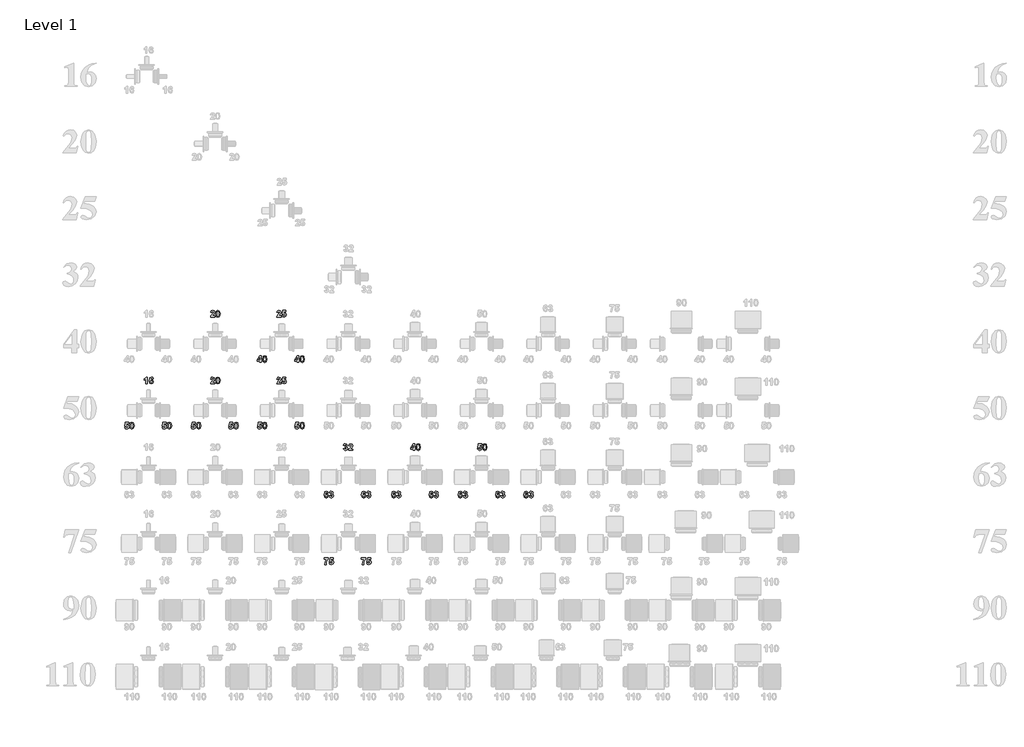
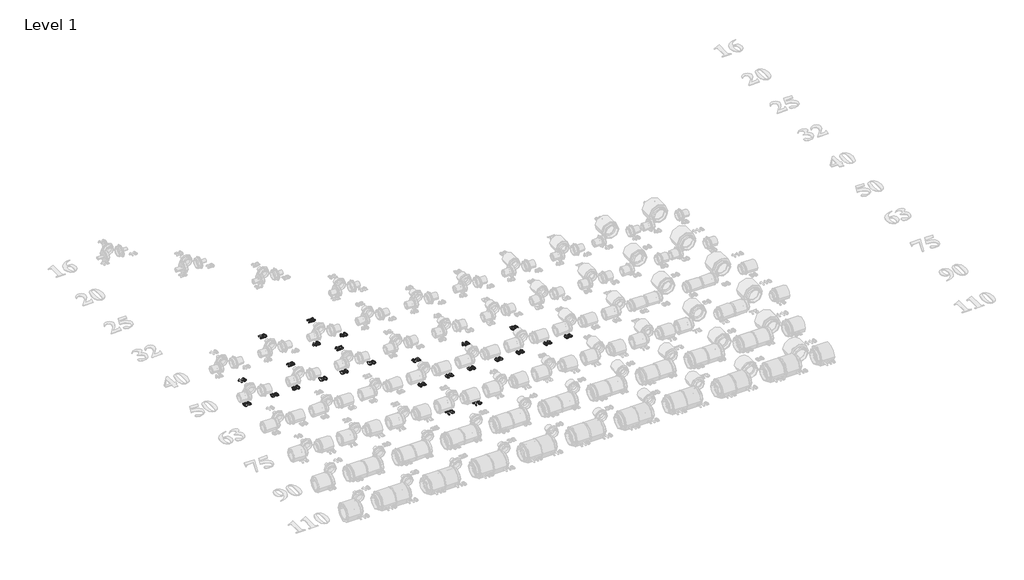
# One storey, part 21 of 57: 25 proxies.
"""IFC4 building model written with IfcOpenShell, lengths in millimetres."""

from ifc_helpers import new_model, si_unit, frame, origin, place, context, project, spatial, polyline, outline, extrude, element, save

model = new_model("IFC4")

# Units and contexts
model_context = context("Model", 3, world=origin())
ifc_project = project(units=[si_unit("LENGTHUNIT", "METRE", prefix="MILLI")], contexts=[model_context])

# Site, building, storey
site = spatial("IfcSite", under=ifc_project)
building = spatial("IfcBuilding", under=site)
storey = spatial("IfcBuildingStorey", under=building, Name="Level 1", Elevation=27.3876384)

# Proxies
placement = place(None, origin())
element("IfcBuildingElementProxy", 1, Name="30mm Arial", ObjectType="30mm Arial", at=placement, inside=storey, context=model_context, shape_type="SweptSolid", body=[
    extrude(outline(polyline([(13564.9569226, 17572.2275482), (13564.9569226, 17566.3974945), (13545.5234103, 17566.3974945), (13547.3832581, 17572.1174756), (13553.4941868, 17579.2873789), (13558.003369, 17584.1761218), (13559.1268689, 17587.6832635), (13558.1817626, 17590.6324508), (13555.5741799, 17591.6610606), (13552.9628017, 17590.6476333), (13551.8393018, 17587.2885203), (13546.0092481, 17587.8199054), (13549.136829, 17594.8683493), (13555.7032306, 17597.0052765), (13562.4897775, 17594.6102479), (13564.9569226, 17588.6549391), (13564.2813044, 17584.7986015), (13562.1405816, 17580.9650376), (13558.515776, 17577.1390648), (13555.1870279, 17573.8217035), (13554.0938929, 17572.2275482), (13564.9569226, 17572.2275482)])), frame((0.0, 0.0, 27.3876384), z_axis=(0.0, 0.0, 1.0), x_axis=(1.0, 0.0, 0.0)), (0.0, 0.0, 1.0), 2.0),
    extrude(outline(polyline([(13578.5603813, 17597.0052765), (13585.3545194, 17593.8473307), (13588.2771375, 17581.4508754), (13585.339337, 17569.0240552), (13578.5603813, 17565.9116567), (13571.5195287, 17569.3277038), (13568.8436251, 17581.5116051), (13571.7814256, 17593.892878), (13578.5603813, 17597.0052765)]), holes=[polyline([(13578.5603813, 17591.6610606), (13576.6170301, 17591.0196029), (13575.2961585, 17588.7156689), (13574.6736788, 17581.4508754), (13575.2278376, 17574.4327964), (13576.6284169, 17571.8897391), (13578.5603813, 17571.2558726), (13580.5037325, 17571.8973303), (13581.8246041, 17574.2012643), (13582.4470838, 17581.4508754), (13581.892925, 17588.4651587), (13580.4923457, 17591.0196029), (13578.5603813, 17591.6610606)])]), frame((0.0, 0.0, 27.3876384), z_axis=(0.0, 0.0, 1.0), x_axis=(1.0, 0.0, 0.0)), (0.0, 0.0, 1.0), 2.0),
])
element("IfcBuildingElementProxy", 2, Name="30mm Arial", ObjectType="30mm Arial", at=placement, inside=storey, context=model_context, shape_type="SweptSolid", body=[
    extrude(outline(polyline([(13767.2836573, 17362.5788539), (13767.2836573, 17368.8947455), (13755.6235498, 17368.8947455), (13755.6235498, 17373.7303499), (13768.0579613, 17392.7007981), (13773.113711, 17392.7007981), (13773.113711, 17373.7531236), (13777.0004134, 17373.7531236), (13777.0004134, 17368.8947455), (13773.113711, 17368.8947455), (13773.113711, 17362.5788539), (13767.2836573, 17362.5788539)]), holes=[polyline([(13767.2836573, 17373.7531236), (13767.2836573, 17383.6976162), (13760.7703941, 17373.7531236), (13767.2836573, 17373.7531236)])]), frame((0.0, 0.0, 27.3876384), z_axis=(0.0, 0.0, 1.0), x_axis=(1.0, 0.0, 0.0)), (0.0, 0.0, 1.0), 2.0),
    extrude(outline(polyline([(13789.6321965, 17393.1866359), (13796.4263346, 17390.0286902), (13799.3489527, 17377.6322348), (13796.4111522, 17365.2054146), (13789.6321965, 17362.0930161), (13782.5913439, 17365.5090632), (13779.9154403, 17377.6929645), (13782.8532408, 17390.0742375), (13789.6321965, 17393.1866359)]), holes=[polyline([(13789.6321965, 17387.84242), (13787.6888453, 17387.2009623), (13786.3679737, 17384.8970283), (13785.745494, 17377.6322348), (13786.2996528, 17370.6141558), (13787.7002321, 17368.0710985), (13789.6321965, 17367.437232), (13791.5755477, 17368.0786898), (13792.8964193, 17370.3826237), (13793.518899, 17377.6322348), (13792.9647402, 17384.6465182), (13791.5641609, 17387.2009623), (13789.6321965, 17387.84242)])]), frame((0.0, 0.0, 27.3876384), z_axis=(0.0, 0.0, 1.0), x_axis=(1.0, 0.0, 0.0)), (0.0, 0.0, 1.0), 2.0),
])
element("IfcBuildingElementProxy", 3, Name="30mm Arial", ObjectType="30mm Arial", at=placement, inside=storey, context=model_context, shape_type="SweptSolid", body=[
    extrude(outline(polyline([(13936.0336573, 17362.5788539), (13936.0336573, 17368.8947455), (13924.3735498, 17368.8947455), (13924.3735498, 17373.7303499), (13936.8079613, 17392.7007981), (13941.863711, 17392.7007981), (13941.863711, 17373.7531236), (13945.7504134, 17373.7531236), (13945.7504134, 17368.8947455), (13941.863711, 17368.8947455), (13941.863711, 17362.5788539), (13936.0336573, 17362.5788539)]), holes=[polyline([(13936.0336573, 17373.7531236), (13936.0336573, 17383.6976162), (13929.5203941, 17373.7531236), (13936.0336573, 17373.7531236)])]), frame((0.0, 0.0, 27.3876384), z_axis=(0.0, 0.0, 1.0), x_axis=(1.0, 0.0, 0.0)), (0.0, 0.0, 1.0), 2.0),
    extrude(outline(polyline([(13958.3821965, 17393.1866359), (13965.1763346, 17390.0286902), (13968.0989527, 17377.6322348), (13965.1611522, 17365.2054146), (13958.3821965, 17362.0930161), (13951.3413439, 17365.5090632), (13948.6654403, 17377.6929645), (13951.6032408, 17390.0742375), (13958.3821965, 17393.1866359)]), holes=[polyline([(13958.3821965, 17387.84242), (13956.4388453, 17387.2009623), (13955.1179737, 17384.8970283), (13954.495494, 17377.6322348), (13955.0496528, 17370.6141558), (13956.4502321, 17368.0710985), (13958.3821965, 17367.437232), (13960.3255477, 17368.0786898), (13961.6464193, 17370.3826237), (13962.268899, 17377.6322348), (13961.7147402, 17384.6465182), (13960.3141609, 17387.2009623), (13958.3821965, 17387.84242)])]), frame((0.0, 0.0, 27.3876384), z_axis=(0.0, 0.0, 1.0), x_axis=(1.0, 0.0, 0.0)), (0.0, 0.0, 1.0), 2.0),
])
element("IfcBuildingElementProxy", 4, Name="30mm Arial", ObjectType="30mm Arial", at=placement, inside=storey, context=model_context, shape_type="SweptSolid", body=[
    extrude(outline(polyline([(13862.9569226, 17572.2275482), (13862.9569226, 17566.3974945), (13843.5234103, 17566.3974945), (13845.3832581, 17572.1174756), (13851.4941868, 17579.2873789), (13856.003369, 17584.1761218), (13857.1268689, 17587.6832635), (13856.1817626, 17590.6324508), (13853.5741799, 17591.6610606), (13850.9628017, 17590.6476333), (13849.8393018, 17587.2885203), (13844.0092481, 17587.8199054), (13847.136829, 17594.8683493), (13853.7032306, 17597.0052765), (13860.4897775, 17594.6102479), (13862.9569226, 17588.6549391), (13862.2813044, 17584.7986015), (13860.1405816, 17580.9650376), (13856.515776, 17577.1390648), (13853.1870279, 17573.8217035), (13852.0938929, 17572.2275482), (13862.9569226, 17572.2275482)])), frame((0.0, 0.0, 27.3876384), z_axis=(0.0, 0.0, 1.0), x_axis=(1.0, 0.0, 0.0)), (0.0, 0.0, 1.0), 2.0),
    extrude(outline(polyline([(13866.8436251, 17575.0135244), (13872.187841, 17575.6284129), (13873.6757193, 17572.432511), (13876.5300164, 17571.2558726), (13879.6538017, 17572.5046276), (13880.9329216, 17576.266075), (13879.7448963, 17579.7959903), (13876.6514759, 17580.9726288), (13872.3852126, 17578.5434397), (13867.3294629, 17579.2949701), (13870.7303276, 17596.5194387), (13885.3054619, 17596.5194387), (13885.3054619, 17590.689385), (13875.4444726, 17590.689385), (13874.2678341, 17585.1250238), (13878.0254859, 17586.3168447), (13884.219918, 17583.5574377), (13886.7629753, 17576.3951257), (13884.6450261, 17569.8439065), (13876.621111, 17565.9116567), (13869.9370455, 17568.3788018), (13866.8436251, 17575.0135244)])), frame((0.0, 0.0, 27.3876384), z_axis=(0.0, 0.0, 1.0), x_axis=(1.0, 0.0, 0.0)), (0.0, 0.0, 1.0), 2.0),
])
element("IfcBuildingElementProxy", 5, Name="30mm Arial", ObjectType="30mm Arial", at=placement, inside=storey, context=model_context, shape_type="SweptSolid", body=[
    extrude(outline(polyline([(13158.5952254, 17071.1948838), (13163.9394414, 17071.8097723), (13165.4273196, 17068.6138705), (13168.2816168, 17067.437232), (13171.4054021, 17068.685987), (13172.6845219, 17072.4474344), (13171.4964967, 17075.9773498), (13168.4030762, 17077.1539882), (13164.136813, 17074.7247992), (13159.0810633, 17075.4763295), (13162.4819279, 17092.7007981), (13177.0570622, 17092.7007981), (13177.0570622, 17086.8707444), (13167.1960729, 17086.8707444), (13166.0194345, 17081.3063832), (13169.7770863, 17082.4982041), (13175.9715184, 17079.7387972), (13178.5145756, 17072.5764851), (13176.3966264, 17066.0252659), (13168.3727114, 17062.0930161), (13161.6886459, 17064.5601612), (13158.5952254, 17071.1948838)])), frame((0.0, 0.0, 27.3876384), z_axis=(0.0, 0.0, 1.0), x_axis=(1.0, 0.0, 0.0)), (0.0, 0.0, 1.0), 2.0),
    extrude(outline(polyline([(13191.6321965, 17093.1866359), (13198.4263346, 17090.0286902), (13201.3489527, 17077.6322348), (13198.4111522, 17065.2054146), (13191.6321965, 17062.0930161), (13184.5913439, 17065.5090632), (13181.9154403, 17077.6929645), (13184.8532408, 17090.0742375), (13191.6321965, 17093.1866359)]), holes=[polyline([(13191.6321965, 17087.84242), (13189.6888453, 17087.2009623), (13188.3679737, 17084.8970283), (13187.745494, 17077.6322348), (13188.2996528, 17070.6141558), (13189.7002321, 17068.0710985), (13191.6321965, 17067.437232), (13193.5755477, 17068.0786898), (13194.8964193, 17070.3826237), (13195.518899, 17077.6322348), (13194.9647402, 17084.6465182), (13193.5641609, 17087.2009623), (13191.6321965, 17087.84242)])]), frame((0.0, 0.0, 27.3876384), z_axis=(0.0, 0.0, 1.0), x_axis=(1.0, 0.0, 0.0)), (0.0, 0.0, 1.0), 2.0),
])
element("IfcBuildingElementProxy", 6, Name="30mm Arial", ObjectType="30mm Arial", at=placement, inside=storey, context=model_context, shape_type="SweptSolid", body=[
    extrude(outline(polyline([(13327.3452254, 17071.1948838), (13332.6894414, 17071.8097723), (13334.1773196, 17068.6138705), (13337.0316168, 17067.437232), (13340.1554021, 17068.685987), (13341.4345219, 17072.4474344), (13340.2464967, 17075.9773498), (13337.1530762, 17077.1539882), (13332.886813, 17074.7247992), (13327.8310633, 17075.4763295), (13331.2319279, 17092.7007981), (13345.8070622, 17092.7007981), (13345.8070622, 17086.8707444), (13335.9460729, 17086.8707444), (13334.7694345, 17081.3063832), (13338.5270863, 17082.4982041), (13344.7215184, 17079.7387972), (13347.2645756, 17072.5764851), (13345.1466264, 17066.0252659), (13337.1227114, 17062.0930161), (13330.4386459, 17064.5601612), (13327.3452254, 17071.1948838)])), frame((0.0, 0.0, 27.3876384), z_axis=(0.0, 0.0, 1.0), x_axis=(1.0, 0.0, 0.0)), (0.0, 0.0, 1.0), 2.0),
    extrude(outline(polyline([(13360.3821965, 17093.1866359), (13367.1763346, 17090.0286902), (13370.0989527, 17077.6322348), (13367.1611522, 17065.2054146), (13360.3821965, 17062.0930161), (13353.3413439, 17065.5090632), (13350.6654403, 17077.6929645), (13353.6032408, 17090.0742375), (13360.3821965, 17093.1866359)]), holes=[polyline([(13360.3821965, 17087.84242), (13358.4388453, 17087.2009623), (13357.1179737, 17084.8970283), (13356.495494, 17077.6322348), (13357.0496528, 17070.6141558), (13358.4502321, 17068.0710985), (13360.3821965, 17067.437232), (13362.3255477, 17068.0786898), (13363.6464193, 17070.3826237), (13364.268899, 17077.6322348), (13363.7147402, 17084.6465182), (13362.3141609, 17087.2009623), (13360.3821965, 17087.84242)])]), frame((0.0, 0.0, 27.3876384), z_axis=(0.0, 0.0, 1.0), x_axis=(1.0, 0.0, 0.0)), (0.0, 0.0, 1.0), 2.0),
])
element("IfcBuildingElementProxy", 7, Name="30mm Arial", ObjectType="30mm Arial", at=placement, inside=storey, context=model_context, shape_type="SweptSolid", body=[
    extrude(outline(polyline([(13260.0985445, 17266.3974945), (13254.2684908, 17266.3974945), (13254.2684908, 17288.2753784), (13246.9809237, 17283.4018178), (13246.9809237, 17289.2318715), (13251.846893, 17292.0899643), (13255.4527205, 17297.0052765), (13260.0985445, 17297.0052765), (13260.0985445, 17266.3974945)])), frame((0.0, 0.0, 27.3876384), z_axis=(0.0, 0.0, 1.0), x_axis=(1.0, 0.0, 0.0)), (0.0, 0.0, 1.0), 2.0),
    extrude(outline(polyline([(13287.7912997, 17288.8826756), (13281.961246, 17288.2601959), (13280.9288406, 17290.8298225), (13278.7577529, 17291.6610606), (13275.7668139, 17290.0479272), (13274.2257971, 17283.2727672), (13279.5548306, 17285.8310069), (13285.7151022, 17283.0981692), (13288.2771375, 17276.0459297), (13285.658168, 17268.686246), (13278.9247597, 17265.9116567), (13271.6827398, 17269.4947105), (13268.8436251, 17281.2383213), (13271.8079949, 17293.3083544), (13279.5092833, 17297.0052765), (13285.0129147, 17294.9252834), (13287.7912997, 17288.8826756)]), holes=[polyline([(13274.6736788, 17276.1749804), (13275.9338206, 17272.5349924), (13278.8108914, 17271.2558726), (13281.4070872, 17272.3034604), (13282.4470838, 17275.7422811), (13281.3273794, 17279.344313), (13278.5300164, 17280.486791), (13275.7933831, 17279.3936559), (13274.6736788, 17276.1749804)])]), frame((0.0, 0.0, 27.3876384), z_axis=(0.0, 0.0, 1.0), x_axis=(1.0, 0.0, 0.0)), (0.0, 0.0, 1.0), 2.0),
])
element("IfcBuildingElementProxy", 8, Name="30mm Arial", ObjectType="30mm Arial", at=placement, inside=storey, context=model_context, shape_type="SweptSolid", body=[
    extrude(outline(polyline([(13458.5952254, 17071.1948838), (13463.9394414, 17071.8097723), (13465.4273196, 17068.6138705), (13468.2816168, 17067.437232), (13471.4054021, 17068.685987), (13472.6845219, 17072.4474344), (13471.4964967, 17075.9773498), (13468.4030762, 17077.1539882), (13464.136813, 17074.7247992), (13459.0810633, 17075.4763295), (13462.4819279, 17092.7007981), (13477.0570622, 17092.7007981), (13477.0570622, 17086.8707444), (13467.1960729, 17086.8707444), (13466.0194345, 17081.3063832), (13469.7770863, 17082.4982041), (13475.9715184, 17079.7387972), (13478.5145756, 17072.5764851), (13476.3966264, 17066.0252659), (13468.3727114, 17062.0930161), (13461.6886459, 17064.5601612), (13458.5952254, 17071.1948838)])), frame((0.0, 0.0, 27.3876384), z_axis=(0.0, 0.0, 1.0), x_axis=(1.0, 0.0, 0.0)), (0.0, 0.0, 1.0), 2.0),
    extrude(outline(polyline([(13491.6321965, 17093.1866359), (13498.4263346, 17090.0286902), (13501.3489527, 17077.6322348), (13498.4111522, 17065.2054146), (13491.6321965, 17062.0930161), (13484.5913439, 17065.5090632), (13481.9154403, 17077.6929645), (13484.8532408, 17090.0742375), (13491.6321965, 17093.1866359)]), holes=[polyline([(13491.6321965, 17087.84242), (13489.6888453, 17087.2009623), (13488.3679737, 17084.8970283), (13487.745494, 17077.6322348), (13488.2996528, 17070.6141558), (13489.7002321, 17068.0710985), (13491.6321965, 17067.437232), (13493.5755477, 17068.0786898), (13494.8964193, 17070.3826237), (13495.518899, 17077.6322348), (13494.9647402, 17084.6465182), (13493.5641609, 17087.2009623), (13491.6321965, 17087.84242)])]), frame((0.0, 0.0, 27.3876384), z_axis=(0.0, 0.0, 1.0), x_axis=(1.0, 0.0, 0.0)), (0.0, 0.0, 1.0), 2.0),
])
element("IfcBuildingElementProxy", 9, Name="30mm Arial", ObjectType="30mm Arial", at=placement, inside=storey, context=model_context, shape_type="SweptSolid", body=[
    extrude(outline(polyline([(13627.3452254, 17071.1948838), (13632.6894414, 17071.8097723), (13634.1773196, 17068.6138705), (13637.0316168, 17067.437232), (13640.1554021, 17068.685987), (13641.4345219, 17072.4474344), (13640.2464967, 17075.9773498), (13637.1530762, 17077.1539882), (13632.886813, 17074.7247992), (13627.8310633, 17075.4763295), (13631.2319279, 17092.7007981), (13645.8070622, 17092.7007981), (13645.8070622, 17086.8707444), (13635.9460729, 17086.8707444), (13634.7694345, 17081.3063832), (13638.5270863, 17082.4982041), (13644.7215184, 17079.7387972), (13647.2645756, 17072.5764851), (13645.1466264, 17066.0252659), (13637.1227114, 17062.0930161), (13630.4386459, 17064.5601612), (13627.3452254, 17071.1948838)])), frame((0.0, 0.0, 27.3876384), z_axis=(0.0, 0.0, 1.0), x_axis=(1.0, 0.0, 0.0)), (0.0, 0.0, 1.0), 2.0),
    extrude(outline(polyline([(13660.3821965, 17093.1866359), (13667.1763346, 17090.0286902), (13670.0989527, 17077.6322348), (13667.1611522, 17065.2054146), (13660.3821965, 17062.0930161), (13653.3413439, 17065.5090632), (13650.6654403, 17077.6929645), (13653.6032408, 17090.0742375), (13660.3821965, 17093.1866359)]), holes=[polyline([(13660.3821965, 17087.84242), (13658.4388453, 17087.2009623), (13657.1179737, 17084.8970283), (13656.495494, 17077.6322348), (13657.0496528, 17070.6141558), (13658.4502321, 17068.0710985), (13660.3821965, 17067.437232), (13662.3255477, 17068.0786898), (13663.6464193, 17070.3826237), (13664.268899, 17077.6322348), (13663.7147402, 17084.6465182), (13662.3141609, 17087.2009623), (13660.3821965, 17087.84242)])]), frame((0.0, 0.0, 27.3876384), z_axis=(0.0, 0.0, 1.0), x_axis=(1.0, 0.0, 0.0)), (0.0, 0.0, 1.0), 2.0),
])
element("IfcBuildingElementProxy", 10, Name="30mm Arial", ObjectType="30mm Arial", at=placement, inside=storey, context=model_context, shape_type="SweptSolid", body=[
    extrude(outline(polyline([(13564.9569226, 17272.2275482), (13564.9569226, 17266.3974945), (13545.5234103, 17266.3974945), (13547.3832581, 17272.1174756), (13553.4941868, 17279.2873789), (13558.003369, 17284.1761218), (13559.1268689, 17287.6832635), (13558.1817626, 17290.6324508), (13555.5741799, 17291.6610606), (13552.9628017, 17290.6476333), (13551.8393018, 17287.2885203), (13546.0092481, 17287.8199054), (13549.136829, 17294.8683493), (13555.7032306, 17297.0052765), (13562.4897775, 17294.6102479), (13564.9569226, 17288.6549391), (13564.2813044, 17284.7986015), (13562.1405816, 17280.9650376), (13558.515776, 17277.1390648), (13555.1870279, 17273.8217035), (13554.0938929, 17272.2275482), (13564.9569226, 17272.2275482)])), frame((0.0, 0.0, 27.3876384), z_axis=(0.0, 0.0, 1.0), x_axis=(1.0, 0.0, 0.0)), (0.0, 0.0, 1.0), 2.0),
    extrude(outline(polyline([(13578.5603813, 17297.0052765), (13585.3545194, 17293.8473307), (13588.2771375, 17281.4508754), (13585.339337, 17269.0240552), (13578.5603813, 17265.9116567), (13571.5195287, 17269.3277038), (13568.8436251, 17281.5116051), (13571.7814256, 17293.892878), (13578.5603813, 17297.0052765)]), holes=[polyline([(13578.5603813, 17291.6610606), (13576.6170301, 17291.0196029), (13575.2961585, 17288.7156689), (13574.6736788, 17281.4508754), (13575.2278376, 17274.4327964), (13576.6284169, 17271.8897391), (13578.5603813, 17271.2558726), (13580.5037325, 17271.8973303), (13581.8246041, 17274.2012643), (13582.4470838, 17281.4508754), (13581.892925, 17288.4651587), (13580.4923457, 17291.0196029), (13578.5603813, 17291.6610606)])]), frame((0.0, 0.0, 27.3876384), z_axis=(0.0, 0.0, 1.0), x_axis=(1.0, 0.0, 0.0)), (0.0, 0.0, 1.0), 2.0),
])
element("IfcBuildingElementProxy", 11, Name="30mm Arial", ObjectType="30mm Arial", at=placement, inside=storey, context=model_context, shape_type="SweptSolid", body=[
    extrude(outline(polyline([(13756.5952254, 17071.1948838), (13761.9394414, 17071.8097723), (13763.4273196, 17068.6138705), (13766.2816168, 17067.437232), (13769.4054021, 17068.685987), (13770.6845219, 17072.4474344), (13769.4964967, 17075.9773498), (13766.4030762, 17077.1539882), (13762.136813, 17074.7247992), (13757.0810633, 17075.4763295), (13760.4819279, 17092.7007981), (13775.0570622, 17092.7007981), (13775.0570622, 17086.8707444), (13765.1960729, 17086.8707444), (13764.0194345, 17081.3063832), (13767.7770863, 17082.4982041), (13773.9715184, 17079.7387972), (13776.5145756, 17072.5764851), (13774.3966264, 17066.0252659), (13766.3727114, 17062.0930161), (13759.6886459, 17064.5601612), (13756.5952254, 17071.1948838)])), frame((0.0, 0.0, 27.3876384), z_axis=(0.0, 0.0, 1.0), x_axis=(1.0, 0.0, 0.0)), (0.0, 0.0, 1.0), 2.0),
    extrude(outline(polyline([(13789.6321965, 17093.1866359), (13796.4263346, 17090.0286902), (13799.3489527, 17077.6322348), (13796.4111522, 17065.2054146), (13789.6321965, 17062.0930161), (13782.5913439, 17065.5090632), (13779.9154403, 17077.6929645), (13782.8532408, 17090.0742375), (13789.6321965, 17093.1866359)]), holes=[polyline([(13789.6321965, 17087.84242), (13787.6888453, 17087.2009623), (13786.3679737, 17084.8970283), (13785.745494, 17077.6322348), (13786.2996528, 17070.6141558), (13787.7002321, 17068.0710985), (13789.6321965, 17067.437232), (13791.5755477, 17068.0786898), (13792.8964193, 17070.3826237), (13793.518899, 17077.6322348), (13792.9647402, 17084.6465182), (13791.5641609, 17087.2009623), (13789.6321965, 17087.84242)])]), frame((0.0, 0.0, 27.3876384), z_axis=(0.0, 0.0, 1.0), x_axis=(1.0, 0.0, 0.0)), (0.0, 0.0, 1.0), 2.0),
])
element("IfcBuildingElementProxy", 12, Name="30mm Arial", ObjectType="30mm Arial", at=placement, inside=storey, context=model_context, shape_type="SweptSolid", body=[
    extrude(outline(polyline([(13925.3452254, 17071.1948838), (13930.6894414, 17071.8097723), (13932.1773196, 17068.6138705), (13935.0316168, 17067.437232), (13938.1554021, 17068.685987), (13939.4345219, 17072.4474344), (13938.2464967, 17075.9773498), (13935.1530762, 17077.1539882), (13930.886813, 17074.7247992), (13925.8310633, 17075.4763295), (13929.2319279, 17092.7007981), (13943.8070622, 17092.7007981), (13943.8070622, 17086.8707444), (13933.9460729, 17086.8707444), (13932.7694345, 17081.3063832), (13936.5270863, 17082.4982041), (13942.7215184, 17079.7387972), (13945.2645756, 17072.5764851), (13943.1466264, 17066.0252659), (13935.1227114, 17062.0930161), (13928.4386459, 17064.5601612), (13925.3452254, 17071.1948838)])), frame((0.0, 0.0, 27.3876384), z_axis=(0.0, 0.0, 1.0), x_axis=(1.0, 0.0, 0.0)), (0.0, 0.0, 1.0), 2.0),
    extrude(outline(polyline([(13958.3821965, 17093.1866359), (13965.1763346, 17090.0286902), (13968.0989527, 17077.6322348), (13965.1611522, 17065.2054146), (13958.3821965, 17062.0930161), (13951.3413439, 17065.5090632), (13948.6654403, 17077.6929645), (13951.6032408, 17090.0742375), (13958.3821965, 17093.1866359)]), holes=[polyline([(13958.3821965, 17087.84242), (13956.4388453, 17087.2009623), (13955.1179737, 17084.8970283), (13954.495494, 17077.6322348), (13955.0496528, 17070.6141558), (13956.4502321, 17068.0710985), (13958.3821965, 17067.437232), (13960.3255477, 17068.0786898), (13961.6464193, 17070.3826237), (13962.268899, 17077.6322348), (13961.7147402, 17084.6465182), (13960.3141609, 17087.2009623), (13958.3821965, 17087.84242)])]), frame((0.0, 0.0, 27.3876384), z_axis=(0.0, 0.0, 1.0), x_axis=(1.0, 0.0, 0.0)), (0.0, 0.0, 1.0), 2.0),
])
element("IfcBuildingElementProxy", 13, Name="30mm Arial", ObjectType="30mm Arial", at=placement, inside=storey, context=model_context, shape_type="SweptSolid", body=[
    extrude(outline(polyline([(13862.9569226, 17272.2275482), (13862.9569226, 17266.3974945), (13843.5234103, 17266.3974945), (13845.3832581, 17272.1174756), (13851.4941868, 17279.2873789), (13856.003369, 17284.1761218), (13857.1268689, 17287.6832635), (13856.1817626, 17290.6324508), (13853.5741799, 17291.6610606), (13850.9628017, 17290.6476333), (13849.8393018, 17287.2885203), (13844.0092481, 17287.8199054), (13847.136829, 17294.8683493), (13853.7032306, 17297.0052765), (13860.4897775, 17294.6102479), (13862.9569226, 17288.6549391), (13862.2813044, 17284.7986015), (13860.1405816, 17280.9650376), (13856.515776, 17277.1390648), (13853.1870279, 17273.8217035), (13852.0938929, 17272.2275482), (13862.9569226, 17272.2275482)])), frame((0.0, 0.0, 27.3876384), z_axis=(0.0, 0.0, 1.0), x_axis=(1.0, 0.0, 0.0)), (0.0, 0.0, 1.0), 2.0),
    extrude(outline(polyline([(13866.8436251, 17275.0135244), (13872.187841, 17275.6284129), (13873.6757193, 17272.432511), (13876.5300164, 17271.2558726), (13879.6538017, 17272.5046276), (13880.9329216, 17276.266075), (13879.7448963, 17279.7959903), (13876.6514759, 17280.9726288), (13872.3852126, 17278.5434397), (13867.3294629, 17279.2949701), (13870.7303276, 17296.5194387), (13885.3054619, 17296.5194387), (13885.3054619, 17290.689385), (13875.4444726, 17290.689385), (13874.2678341, 17285.1250238), (13878.0254859, 17286.3168447), (13884.219918, 17283.5574377), (13886.7629753, 17276.3951257), (13884.6450261, 17269.8439065), (13876.621111, 17265.9116567), (13869.9370455, 17268.3788018), (13866.8436251, 17275.0135244)])), frame((0.0, 0.0, 27.3876384), z_axis=(0.0, 0.0, 1.0), x_axis=(1.0, 0.0, 0.0)), (0.0, 0.0, 1.0), 2.0),
])
element("IfcBuildingElementProxy", 14, Name="30mm Arial", ObjectType="30mm Arial", at=placement, inside=storey, context=model_context, shape_type="SweptSolid", body=[
    extrude(outline(polyline([(14075.5429, 16775.0640351), (14069.7128463, 16774.4415554), (14068.680441, 16777.0111819), (14066.5093532, 16777.84242), (14063.5184142, 16776.2292867), (14061.9773974, 16769.4541266), (14067.3064309, 16772.0123663), (14073.4667025, 16769.2795286), (14076.0287378, 16762.2272892), (14073.4097684, 16754.8676055), (14066.67636, 16752.0930161), (14059.4343401, 16755.67607), (14056.5952254, 16767.4196808), (14059.5595952, 16779.4897138), (14067.2608836, 16783.1866359), (14072.764515, 16781.1066428), (14075.5429, 16775.0640351)]), holes=[polyline([(14062.4252792, 16762.3563398), (14063.685421, 16758.7163519), (14066.5624918, 16757.437232), (14069.1586876, 16758.4848198), (14070.1986841, 16761.9236405), (14069.0789798, 16765.5256724), (14066.2816168, 16766.6681504), (14063.5449835, 16765.5750153), (14062.4252792, 16762.3563398)])]), frame((0.0, 0.0, 27.3876384), z_axis=(0.0, 0.0, 1.0), x_axis=(1.0, 0.0, 0.0)), (0.0, 0.0, 1.0), 2.0),
    extrude(outline(polyline([(14079.9154403, 16761.1341541), (14085.745494, 16761.8097723), (14087.0587743, 16758.560732), (14089.6473789, 16757.437232), (14092.4029903, 16758.7239431), (14093.518899, 16762.1893331), (14092.4978804, 16765.4611471), (14090.0041661, 16766.6681504), (14087.6888453, 16766.2354511), (14088.1974567, 16771.0406907), (14091.0707319, 16771.9971839), (14092.0613855, 16774.6996567), (14091.321242, 16776.9884083), (14089.3513215, 16777.84242), (14087.275124, 16776.8517664), (14086.2313318, 16773.9557175), (14080.4012781, 16774.8287074), (14082.0068202, 16779.4631446), (14085.0053505, 16782.1921867), (14089.3133654, 16783.1866359), (14095.8569934, 16780.4310246), (14097.8914393, 16775.3297276), (14093.5264902, 16768.8999678), (14097.7623886, 16766.3986622), (14099.3489527, 16761.7034953), (14096.5364072, 16754.9055616), (14089.5335107, 16752.0930161), (14082.948131, 16754.5943217), (14079.9154403, 16761.1341541)])), frame((0.0, 0.0, 27.3876384), z_axis=(0.0, 0.0, 1.0), x_axis=(1.0, 0.0, 0.0)), (0.0, 0.0, 1.0), 2.0),
])
element("IfcBuildingElementProxy", 15, Name="30mm Arial", ObjectType="30mm Arial", at=placement, inside=storey, context=model_context, shape_type="SweptSolid", body=[
    extrude(outline(polyline([(14244.2929, 16775.0640351), (14238.4628463, 16774.4415554), (14237.430441, 16777.0111819), (14235.2593532, 16777.84242), (14232.2684142, 16776.2292867), (14230.7273974, 16769.4541266), (14236.0564309, 16772.0123663), (14242.2167025, 16769.2795286), (14244.7787378, 16762.2272892), (14242.1597684, 16754.8676055), (14235.42636, 16752.0930161), (14228.1843401, 16755.67607), (14225.3452254, 16767.4196808), (14228.3095952, 16779.4897138), (14236.0108836, 16783.1866359), (14241.514515, 16781.1066428), (14244.2929, 16775.0640351)]), holes=[polyline([(14231.1752792, 16762.3563398), (14232.435421, 16758.7163519), (14235.3124918, 16757.437232), (14237.9086876, 16758.4848198), (14238.9486841, 16761.9236405), (14237.8289798, 16765.5256724), (14235.0316168, 16766.6681504), (14232.2949835, 16765.5750153), (14231.1752792, 16762.3563398)])]), frame((0.0, 0.0, 27.3876384), z_axis=(0.0, 0.0, 1.0), x_axis=(1.0, 0.0, 0.0)), (0.0, 0.0, 1.0), 2.0),
    extrude(outline(polyline([(14248.6654403, 16761.1341541), (14254.495494, 16761.8097723), (14255.8087743, 16758.560732), (14258.3973789, 16757.437232), (14261.1529903, 16758.7239431), (14262.268899, 16762.1893331), (14261.2478804, 16765.4611471), (14258.7541661, 16766.6681504), (14256.4388453, 16766.2354511), (14256.9474567, 16771.0406907), (14259.8207319, 16771.9971839), (14260.8113855, 16774.6996567), (14260.071242, 16776.9884083), (14258.1013215, 16777.84242), (14256.025124, 16776.8517664), (14254.9813318, 16773.9557175), (14249.1512781, 16774.8287074), (14250.7568202, 16779.4631446), (14253.7553505, 16782.1921867), (14258.0633654, 16783.1866359), (14264.6069934, 16780.4310246), (14266.6414393, 16775.3297276), (14262.2764902, 16768.8999678), (14266.5123886, 16766.3986622), (14268.0989527, 16761.7034953), (14265.2864072, 16754.9055616), (14258.2835107, 16752.0930161), (14251.698131, 16754.5943217), (14248.6654403, 16761.1341541)])), frame((0.0, 0.0, 27.3876384), z_axis=(0.0, 0.0, 1.0), x_axis=(1.0, 0.0, 0.0)), (0.0, 0.0, 1.0), 2.0),
])
element("IfcBuildingElementProxy", 16, Name="30mm Arial", ObjectType="30mm Arial", at=placement, inside=storey, context=model_context, shape_type="SweptSolid", body=[
    extrude(outline(polyline([(14143.5234103, 16974.9527947), (14149.353464, 16975.6284129), (14150.6667443, 16972.3793725), (14153.2553489, 16971.2558726), (14156.0109602, 16972.5425837), (14157.1268689, 16976.0079737), (14156.1058504, 16979.2797877), (14153.612136, 16980.486791), (14151.2968152, 16980.0540917), (14151.8054267, 16984.8593313), (14154.6787018, 16985.8158244), (14155.6693555, 16988.5182973), (14154.929212, 16990.8070488), (14152.9592915, 16991.6610606), (14150.8830939, 16990.6704069), (14149.8393018, 16987.7743581), (14144.0092481, 16988.6473479), (14145.6147902, 16993.2817852), (14148.6133204, 16996.0108272), (14152.9213354, 16997.0052765), (14159.4649634, 16994.2496652), (14161.4994092, 16989.1483682), (14157.1344601, 16982.7186084), (14161.3703585, 16980.2173028), (14162.9569226, 16975.5221359), (14160.1443772, 16968.7242021), (14153.1414806, 16965.9116567), (14146.556101, 16968.4129623), (14143.5234103, 16974.9527947)])), frame((0.0, 0.0, 27.3876384), z_axis=(0.0, 0.0, 1.0), x_axis=(1.0, 0.0, 0.0)), (0.0, 0.0, 1.0), 2.0),
    extrude(outline(polyline([(14186.2771375, 16972.2275482), (14186.2771375, 16966.3974945), (14166.8436251, 16966.3974945), (14168.703473, 16972.1174756), (14174.8144017, 16979.2873789), (14179.3235838, 16984.1761218), (14180.4470838, 16987.6832635), (14179.5019774, 16990.6324508), (14176.8943948, 16991.6610606), (14174.2830166, 16990.6476333), (14173.1595166, 16987.2885203), (14167.3294629, 16987.8199054), (14170.4570438, 16994.8683493), (14177.0234455, 16997.0052765), (14183.8099924, 16994.6102479), (14186.2771375, 16988.6549391), (14185.6015193, 16984.7986015), (14183.4607964, 16980.9650376), (14179.8359909, 16977.1390648), (14176.5072428, 16973.8217035), (14175.4141077, 16972.2275482), (14186.2771375, 16972.2275482)])), frame((0.0, 0.0, 27.3876384), z_axis=(0.0, 0.0, 1.0), x_axis=(1.0, 0.0, 0.0)), (0.0, 0.0, 1.0), 2.0),
])
element("IfcBuildingElementProxy", 17, Name="30mm Arial", ObjectType="30mm Arial", at=placement, inside=storey, context=model_context, shape_type="SweptSolid", body=[
    extrude(outline(polyline([(14379.5429, 16775.0640351), (14373.7128463, 16774.4415554), (14372.680441, 16777.0111819), (14370.5093532, 16777.84242), (14367.5184142, 16776.2292867), (14365.9773974, 16769.4541266), (14371.3064309, 16772.0123663), (14377.4667025, 16769.2795286), (14380.0287378, 16762.2272892), (14377.4097684, 16754.8676055), (14370.67636, 16752.0930161), (14363.4343401, 16755.67607), (14360.5952254, 16767.4196808), (14363.5595952, 16779.4897138), (14371.2608836, 16783.1866359), (14376.764515, 16781.1066428), (14379.5429, 16775.0640351)]), holes=[polyline([(14366.4252792, 16762.3563398), (14367.685421, 16758.7163519), (14370.5624918, 16757.437232), (14373.1586876, 16758.4848198), (14374.1986841, 16761.9236405), (14373.0789798, 16765.5256724), (14370.2816168, 16766.6681504), (14367.5449835, 16765.5750153), (14366.4252792, 16762.3563398)])]), frame((0.0, 0.0, 27.3876384), z_axis=(0.0, 0.0, 1.0), x_axis=(1.0, 0.0, 0.0)), (0.0, 0.0, 1.0), 2.0),
    extrude(outline(polyline([(14383.9154403, 16761.1341541), (14389.745494, 16761.8097723), (14391.0587743, 16758.560732), (14393.6473789, 16757.437232), (14396.4029903, 16758.7239431), (14397.518899, 16762.1893331), (14396.4978804, 16765.4611471), (14394.0041661, 16766.6681504), (14391.6888453, 16766.2354511), (14392.1974567, 16771.0406907), (14395.0707319, 16771.9971839), (14396.0613855, 16774.6996567), (14395.321242, 16776.9884083), (14393.3513215, 16777.84242), (14391.275124, 16776.8517664), (14390.2313318, 16773.9557175), (14384.4012781, 16774.8287074), (14386.0068202, 16779.4631446), (14389.0053505, 16782.1921867), (14393.3133654, 16783.1866359), (14399.8569934, 16780.4310246), (14401.8914393, 16775.3297276), (14397.5264902, 16768.8999678), (14401.7623886, 16766.3986622), (14403.3489527, 16761.7034953), (14400.5364072, 16754.9055616), (14393.5335107, 16752.0930161), (14386.948131, 16754.5943217), (14383.9154403, 16761.1341541)])), frame((0.0, 0.0, 27.3876384), z_axis=(0.0, 0.0, 1.0), x_axis=(1.0, 0.0, 0.0)), (0.0, 0.0, 1.0), 2.0),
])
element("IfcBuildingElementProxy", 18, Name="30mm Arial", ObjectType="30mm Arial", at=placement, inside=storey, context=model_context, shape_type="SweptSolid", body=[
    extrude(outline(polyline([(14548.2929, 16775.0640351), (14542.4628463, 16774.4415554), (14541.430441, 16777.0111819), (14539.2593532, 16777.84242), (14536.2684142, 16776.2292867), (14534.7273974, 16769.4541266), (14540.0564309, 16772.0123663), (14546.2167025, 16769.2795286), (14548.7787378, 16762.2272892), (14546.1597684, 16754.8676055), (14539.42636, 16752.0930161), (14532.1843401, 16755.67607), (14529.3452254, 16767.4196808), (14532.3095952, 16779.4897138), (14540.0108836, 16783.1866359), (14545.514515, 16781.1066428), (14548.2929, 16775.0640351)]), holes=[polyline([(14535.1752792, 16762.3563398), (14536.435421, 16758.7163519), (14539.3124918, 16757.437232), (14541.9086876, 16758.4848198), (14542.9486841, 16761.9236405), (14541.8289798, 16765.5256724), (14539.0316168, 16766.6681504), (14536.2949835, 16765.5750153), (14535.1752792, 16762.3563398)])]), frame((0.0, 0.0, 27.3876384), z_axis=(0.0, 0.0, 1.0), x_axis=(1.0, 0.0, 0.0)), (0.0, 0.0, 1.0), 2.0),
    extrude(outline(polyline([(14552.6654403, 16761.1341541), (14558.495494, 16761.8097723), (14559.8087743, 16758.560732), (14562.3973789, 16757.437232), (14565.1529903, 16758.7239431), (14566.268899, 16762.1893331), (14565.2478804, 16765.4611471), (14562.7541661, 16766.6681504), (14560.4388453, 16766.2354511), (14560.9474567, 16771.0406907), (14563.8207319, 16771.9971839), (14564.8113855, 16774.6996567), (14564.071242, 16776.9884083), (14562.1013215, 16777.84242), (14560.025124, 16776.8517664), (14558.9813318, 16773.9557175), (14553.1512781, 16774.8287074), (14554.7568202, 16779.4631446), (14557.7553505, 16782.1921867), (14562.0633654, 16783.1866359), (14568.6069934, 16780.4310246), (14570.6414393, 16775.3297276), (14566.2764902, 16768.8999678), (14570.5123886, 16766.3986622), (14572.0989527, 16761.7034953), (14569.2864072, 16754.9055616), (14562.2835107, 16752.0930161), (14555.698131, 16754.5943217), (14552.6654403, 16761.1341541)])), frame((0.0, 0.0, 27.3876384), z_axis=(0.0, 0.0, 1.0), x_axis=(1.0, 0.0, 0.0)), (0.0, 0.0, 1.0), 2.0),
])
element("IfcBuildingElementProxy", 19, Name="30mm Arial", ObjectType="30mm Arial", at=placement, inside=storey, context=model_context, shape_type="SweptSolid", body=[
    extrude(outline(polyline([(14458.2118421, 16966.3974945), (14458.2118421, 16972.713386), (14446.5517346, 16972.713386), (14446.5517346, 16977.5489905), (14458.9861461, 16996.5194387), (14464.0418958, 16996.5194387), (14464.0418958, 16977.5717641), (14467.9285983, 16977.5717641), (14467.9285983, 16972.713386), (14464.0418958, 16972.713386), (14464.0418958, 16966.3974945), (14458.2118421, 16966.3974945)]), holes=[polyline([(14458.2118421, 16977.5717641), (14458.2118421, 16987.5162568), (14451.6985789, 16977.5717641), (14458.2118421, 16977.5717641)])]), frame((0.0, 0.0, 27.3876384), z_axis=(0.0, 0.0, 1.0), x_axis=(1.0, 0.0, 0.0)), (0.0, 0.0, 1.0), 2.0),
    extrude(outline(polyline([(14480.5603813, 16997.0052765), (14487.3545194, 16993.8473307), (14490.2771375, 16981.4508754), (14487.339337, 16969.0240552), (14480.5603813, 16965.9116567), (14473.5195287, 16969.3277038), (14470.8436251, 16981.5116051), (14473.7814256, 16993.892878), (14480.5603813, 16997.0052765)]), holes=[polyline([(14480.5603813, 16991.6610606), (14478.6170301, 16991.0196029), (14477.2961585, 16988.7156689), (14476.6736788, 16981.4508754), (14477.2278376, 16974.4327964), (14478.6284169, 16971.8897391), (14480.5603813, 16971.2558726), (14482.5037325, 16971.8973303), (14483.8246041, 16974.2012643), (14484.4470838, 16981.4508754), (14483.892925, 16988.4651587), (14482.4923457, 16991.0196029), (14480.5603813, 16991.6610606)])]), frame((0.0, 0.0, 27.3876384), z_axis=(0.0, 0.0, 1.0), x_axis=(1.0, 0.0, 0.0)), (0.0, 0.0, 1.0), 2.0),
])
element("IfcBuildingElementProxy", 20, Name="30mm Arial", ObjectType="30mm Arial", at=placement, inside=storey, context=model_context, shape_type="SweptSolid", body=[
    extrude(outline(polyline([(14679.5429, 16775.0640351), (14673.7128463, 16774.4415554), (14672.680441, 16777.0111819), (14670.5093532, 16777.84242), (14667.5184142, 16776.2292867), (14665.9773974, 16769.4541266), (14671.3064309, 16772.0123663), (14677.4667025, 16769.2795286), (14680.0287378, 16762.2272892), (14677.4097684, 16754.8676055), (14670.67636, 16752.0930161), (14663.4343401, 16755.67607), (14660.5952254, 16767.4196808), (14663.5595952, 16779.4897138), (14671.2608836, 16783.1866359), (14676.764515, 16781.1066428), (14679.5429, 16775.0640351)]), holes=[polyline([(14666.4252792, 16762.3563398), (14667.685421, 16758.7163519), (14670.5624918, 16757.437232), (14673.1586876, 16758.4848198), (14674.1986841, 16761.9236405), (14673.0789798, 16765.5256724), (14670.2816168, 16766.6681504), (14667.5449835, 16765.5750153), (14666.4252792, 16762.3563398)])]), frame((0.0, 0.0, 27.3876384), z_axis=(0.0, 0.0, 1.0), x_axis=(1.0, 0.0, 0.0)), (0.0, 0.0, 1.0), 2.0),
    extrude(outline(polyline([(14683.9154403, 16761.1341541), (14689.745494, 16761.8097723), (14691.0587743, 16758.560732), (14693.6473789, 16757.437232), (14696.4029903, 16758.7239431), (14697.518899, 16762.1893331), (14696.4978804, 16765.4611471), (14694.0041661, 16766.6681504), (14691.6888453, 16766.2354511), (14692.1974567, 16771.0406907), (14695.0707319, 16771.9971839), (14696.0613855, 16774.6996567), (14695.321242, 16776.9884083), (14693.3513215, 16777.84242), (14691.275124, 16776.8517664), (14690.2313318, 16773.9557175), (14684.4012781, 16774.8287074), (14686.0068202, 16779.4631446), (14689.0053505, 16782.1921867), (14693.3133654, 16783.1866359), (14699.8569934, 16780.4310246), (14701.8914393, 16775.3297276), (14697.5264902, 16768.8999678), (14701.7623886, 16766.3986622), (14703.3489527, 16761.7034953), (14700.5364072, 16754.9055616), (14693.5335107, 16752.0930161), (14686.948131, 16754.5943217), (14683.9154403, 16761.1341541)])), frame((0.0, 0.0, 27.3876384), z_axis=(0.0, 0.0, 1.0), x_axis=(1.0, 0.0, 0.0)), (0.0, 0.0, 1.0), 2.0),
])
element("IfcBuildingElementProxy", 21, Name="30mm Arial", ObjectType="30mm Arial", at=placement, inside=storey, context=model_context, shape_type="SweptSolid", body=[
    extrude(outline(polyline([(14848.2929, 16775.0640351), (14842.4628463, 16774.4415554), (14841.430441, 16777.0111819), (14839.2593532, 16777.84242), (14836.2684142, 16776.2292867), (14834.7273974, 16769.4541266), (14840.0564309, 16772.0123663), (14846.2167025, 16769.2795286), (14848.7787378, 16762.2272892), (14846.1597684, 16754.8676055), (14839.42636, 16752.0930161), (14832.1843401, 16755.67607), (14829.3452254, 16767.4196808), (14832.3095952, 16779.4897138), (14840.0108836, 16783.1866359), (14845.514515, 16781.1066428), (14848.2929, 16775.0640351)]), holes=[polyline([(14835.1752792, 16762.3563398), (14836.435421, 16758.7163519), (14839.3124918, 16757.437232), (14841.9086876, 16758.4848198), (14842.9486841, 16761.9236405), (14841.8289798, 16765.5256724), (14839.0316168, 16766.6681504), (14836.2949835, 16765.5750153), (14835.1752792, 16762.3563398)])]), frame((0.0, 0.0, 27.3876384), z_axis=(0.0, 0.0, 1.0), x_axis=(1.0, 0.0, 0.0)), (0.0, 0.0, 1.0), 2.0),
    extrude(outline(polyline([(14852.6654403, 16761.1341541), (14858.495494, 16761.8097723), (14859.8087743, 16758.560732), (14862.3973789, 16757.437232), (14865.1529903, 16758.7239431), (14866.268899, 16762.1893331), (14865.2478804, 16765.4611471), (14862.7541661, 16766.6681504), (14860.4388453, 16766.2354511), (14860.9474567, 16771.0406907), (14863.8207319, 16771.9971839), (14864.8113855, 16774.6996567), (14864.071242, 16776.9884083), (14862.1013215, 16777.84242), (14860.025124, 16776.8517664), (14858.9813318, 16773.9557175), (14853.1512781, 16774.8287074), (14854.7568202, 16779.4631446), (14857.7553505, 16782.1921867), (14862.0633654, 16783.1866359), (14868.6069934, 16780.4310246), (14870.6414393, 16775.3297276), (14866.2764902, 16768.8999678), (14870.5123886, 16766.3986622), (14872.0989527, 16761.7034953), (14869.2864072, 16754.9055616), (14862.2835107, 16752.0930161), (14855.698131, 16754.5943217), (14852.6654403, 16761.1341541)])), frame((0.0, 0.0, 27.3876384), z_axis=(0.0, 0.0, 1.0), x_axis=(1.0, 0.0, 0.0)), (0.0, 0.0, 1.0), 2.0),
])
element("IfcBuildingElementProxy", 22, Name="30mm Arial", ObjectType="30mm Arial", at=placement, inside=storey, context=model_context, shape_type="SweptSolid", body=[
    extrude(outline(polyline([(14747.5234103, 16975.0135244), (14752.8676262, 16975.6284129), (14754.3555044, 16972.432511), (14757.2098016, 16971.2558726), (14760.3335869, 16972.5046276), (14761.6127067, 16976.266075), (14760.4246815, 16979.7959903), (14757.331261, 16980.9726288), (14753.0649978, 16978.5434397), (14748.0092481, 16979.2949701), (14751.4101127, 16996.5194387), (14765.985247, 16996.5194387), (14765.985247, 16990.689385), (14756.1242577, 16990.689385), (14754.9476193, 16985.1250238), (14758.7052711, 16986.3168447), (14764.8997032, 16983.5574377), (14767.4427604, 16976.3951257), (14765.3248112, 16969.8439065), (14757.3008962, 16965.9116567), (14750.6168307, 16968.3788018), (14747.5234103, 16975.0135244)])), frame((0.0, 0.0, 27.3876384), z_axis=(0.0, 0.0, 1.0), x_axis=(1.0, 0.0, 0.0)), (0.0, 0.0, 1.0), 2.0),
    extrude(outline(polyline([(14780.5603813, 16997.0052765), (14787.3545194, 16993.8473307), (14790.2771375, 16981.4508754), (14787.339337, 16969.0240552), (14780.5603813, 16965.9116567), (14773.5195287, 16969.3277038), (14770.8436251, 16981.5116051), (14773.7814256, 16993.892878), (14780.5603813, 16997.0052765)]), holes=[polyline([(14780.5603813, 16991.6610606), (14778.6170301, 16991.0196029), (14777.2961585, 16988.7156689), (14776.6736788, 16981.4508754), (14777.2278376, 16974.4327964), (14778.6284169, 16971.8897391), (14780.5603813, 16971.2558726), (14782.5037325, 16971.8973303), (14783.8246041, 16974.2012643), (14784.4470838, 16981.4508754), (14783.892925, 16988.4651587), (14782.4923457, 16991.0196029), (14780.5603813, 16991.6610606)])]), frame((0.0, 0.0, 27.3876384), z_axis=(0.0, 0.0, 1.0), x_axis=(1.0, 0.0, 0.0)), (0.0, 0.0, 1.0), 2.0),
])
element("IfcBuildingElementProxy", 23, Name="30mm Arial", ObjectType="30mm Arial", at=placement, inside=storey, context=model_context, shape_type="SweptSolid", body=[
    extrude(outline(polyline([(14975.5429, 16775.0640351), (14969.7128463, 16774.4415554), (14968.680441, 16777.0111819), (14966.5093532, 16777.84242), (14963.5184142, 16776.2292867), (14961.9773974, 16769.4541266), (14967.3064309, 16772.0123663), (14973.4667025, 16769.2795286), (14976.0287378, 16762.2272892), (14973.4097684, 16754.8676055), (14966.67636, 16752.0930161), (14959.4343401, 16755.67607), (14956.5952254, 16767.4196808), (14959.5595952, 16779.4897138), (14967.2608836, 16783.1866359), (14972.764515, 16781.1066428), (14975.5429, 16775.0640351)]), holes=[polyline([(14962.4252792, 16762.3563398), (14963.685421, 16758.7163519), (14966.5624918, 16757.437232), (14969.1586876, 16758.4848198), (14970.1986841, 16761.9236405), (14969.0789798, 16765.5256724), (14966.2816168, 16766.6681504), (14963.5449835, 16765.5750153), (14962.4252792, 16762.3563398)])]), frame((0.0, 0.0, 27.3876384), z_axis=(0.0, 0.0, 1.0), x_axis=(1.0, 0.0, 0.0)), (0.0, 0.0, 1.0), 2.0),
    extrude(outline(polyline([(14979.9154403, 16761.1341541), (14985.745494, 16761.8097723), (14987.0587743, 16758.560732), (14989.6473789, 16757.437232), (14992.4029903, 16758.7239431), (14993.518899, 16762.1893331), (14992.4978804, 16765.4611471), (14990.0041661, 16766.6681504), (14987.6888453, 16766.2354511), (14988.1974567, 16771.0406907), (14991.0707319, 16771.9971839), (14992.0613855, 16774.6996567), (14991.321242, 16776.9884083), (14989.3513215, 16777.84242), (14987.275124, 16776.8517664), (14986.2313318, 16773.9557175), (14980.4012781, 16774.8287074), (14982.0068202, 16779.4631446), (14985.0053505, 16782.1921867), (14989.3133654, 16783.1866359), (14995.8569934, 16780.4310246), (14997.8914393, 16775.3297276), (14993.5264902, 16768.8999678), (14997.7623886, 16766.3986622), (14999.3489527, 16761.7034953), (14996.5364072, 16754.9055616), (14989.5335107, 16752.0930161), (14982.948131, 16754.5943217), (14979.9154403, 16761.1341541)])), frame((0.0, 0.0, 27.3876384), z_axis=(0.0, 0.0, 1.0), x_axis=(1.0, 0.0, 0.0)), (0.0, 0.0, 1.0), 2.0),
])
element("IfcBuildingElementProxy", 24, Name="30mm Arial", ObjectType="30mm Arial", at=placement, inside=storey, context=model_context, shape_type="SweptSolid", body=[
    extrude(outline(polyline([(14056.5952254, 16476.8707444), (14056.5952254, 16482.7007981), (14076.0287378, 16482.7007981), (14076.0287378, 16478.3282578), (14071.022331, 16471.3595218), (14067.1394242, 16461.7110865), (14065.8261438, 16452.5788539), (14059.9960901, 16452.5788539), (14062.6568112, 16465.2903447), (14069.3636504, 16476.8707444), (14056.5952254, 16476.8707444)])), frame((0.0, 0.0, 27.3876384), z_axis=(0.0, 0.0, 1.0), x_axis=(1.0, 0.0, 0.0)), (0.0, 0.0, 1.0), 2.0),
    extrude(outline(polyline([(14079.9154403, 16461.1948838), (14085.2596562, 16461.8097723), (14086.7475345, 16458.6138705), (14089.6018316, 16457.437232), (14092.7256169, 16458.685987), (14094.0047368, 16462.4474344), (14092.8167115, 16465.9773498), (14089.7232911, 16467.1539882), (14085.4570278, 16464.7247992), (14080.4012781, 16465.4763295), (14083.8021428, 16482.7007981), (14098.3772771, 16482.7007981), (14098.3772771, 16476.8707444), (14088.5162878, 16476.8707444), (14087.3396493, 16471.3063832), (14091.0973011, 16472.4982041), (14097.2917332, 16469.7387972), (14099.8347905, 16462.5764851), (14097.7168413, 16456.0252659), (14089.6929262, 16452.0930161), (14083.0088607, 16454.5601612), (14079.9154403, 16461.1948838)])), frame((0.0, 0.0, 27.3876384), z_axis=(0.0, 0.0, 1.0), x_axis=(1.0, 0.0, 0.0)), (0.0, 0.0, 1.0), 2.0),
])
element("IfcBuildingElementProxy", 25, Name="30mm Arial", ObjectType="30mm Arial", at=placement, inside=storey, context=model_context, shape_type="SweptSolid", body=[
    extrude(outline(polyline([(14225.3452254, 16476.8707444), (14225.3452254, 16482.7007981), (14244.7787378, 16482.7007981), (14244.7787378, 16478.3282578), (14239.772331, 16471.3595218), (14235.8894242, 16461.7110865), (14234.5761438, 16452.5788539), (14228.7460901, 16452.5788539), (14231.4068112, 16465.2903447), (14238.1136504, 16476.8707444), (14225.3452254, 16476.8707444)])), frame((0.0, 0.0, 27.3876384), z_axis=(0.0, 0.0, 1.0), x_axis=(1.0, 0.0, 0.0)), (0.0, 0.0, 1.0), 2.0),
    extrude(outline(polyline([(14248.6654403, 16461.1948838), (14254.0096562, 16461.8097723), (14255.4975345, 16458.6138705), (14258.3518316, 16457.437232), (14261.4756169, 16458.685987), (14262.7547368, 16462.4474344), (14261.5667115, 16465.9773498), (14258.4732911, 16467.1539882), (14254.2070278, 16464.7247992), (14249.1512781, 16465.4763295), (14252.5521428, 16482.7007981), (14267.1272771, 16482.7007981), (14267.1272771, 16476.8707444), (14257.2662878, 16476.8707444), (14256.0896493, 16471.3063832), (14259.8473011, 16472.4982041), (14266.0417332, 16469.7387972), (14268.5847905, 16462.5764851), (14266.4668413, 16456.0252659), (14258.4429262, 16452.0930161), (14251.7588607, 16454.5601612), (14248.6654403, 16461.1948838)])), frame((0.0, 0.0, 27.3876384), z_axis=(0.0, 0.0, 1.0), x_axis=(1.0, 0.0, 0.0)), (0.0, 0.0, 1.0), 2.0),
])

save(model, "model.ifc")
